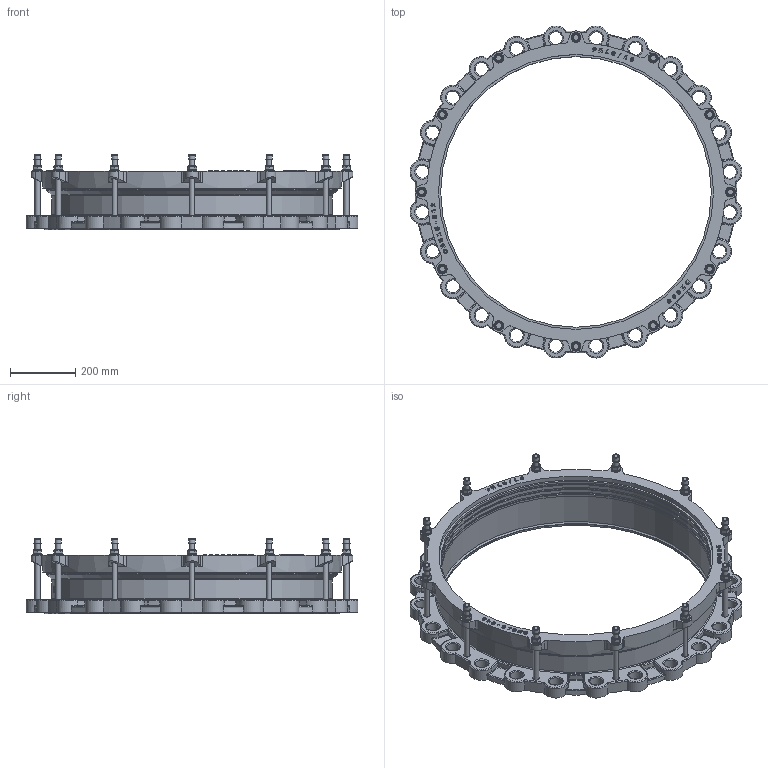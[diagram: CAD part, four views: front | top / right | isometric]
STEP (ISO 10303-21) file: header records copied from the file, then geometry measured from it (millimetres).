
FILE_DESCRIPTION(('STEP AP203'), '1');
FILE_NAME('Ôëàíöåâûé àäàïòåð', '', ('UNSPECIFIED'), ('UNSPECIFIED'), 'C3D Converter', 'C3D Toolkit', '');
FILE_SCHEMA(('CONFIG_CONTROL_DESIGN'));
Length unit declared in the file: millimetre
Assembly tree (51 placements, depth 2):
  (unnamed)
    (unnamed)
    (unnamed)  x12
    (unnamed)  x12
    (unnamed)  x12
    (unnamed)  x12
    (unnamed)
    (unnamed)
Bounding box: 1016.8 x 1016.8 x 231.6 mm (x, y, z)
Volume: 16826400.2 mm3; surface area: 2616053.5 mm2
Topology: 51 solids, 51 shells, 1969 faces, 4885 edges, 2932 vertices
Faces by surface type: plane 591, cylinder 543, extrusion 388, torus 191, bspline 96, cone 88, sphere 72
Full cylindrical faces by diameter (mm): 16 x36, 17 x12, 18 x24, 19.2 x12, 19.408 x1, 22.4 x12, 30 x12, 40 x24, 829 x5, 835.5 x3, 842 x2, 851 x1, 860 x2, 891.5 x1, 896 x2, 914 x1
Entity records: 71595 total; most frequent: CARTESIAN_POINT 31055, ORIENTED_EDGE 7438, DIRECTION 6403, EDGE_CURVE 3719, VERTEX_POINT 2360, AXIS2_PLACEMENT_3D 2296, EDGE_LOOP 1813, VECTOR 1811
